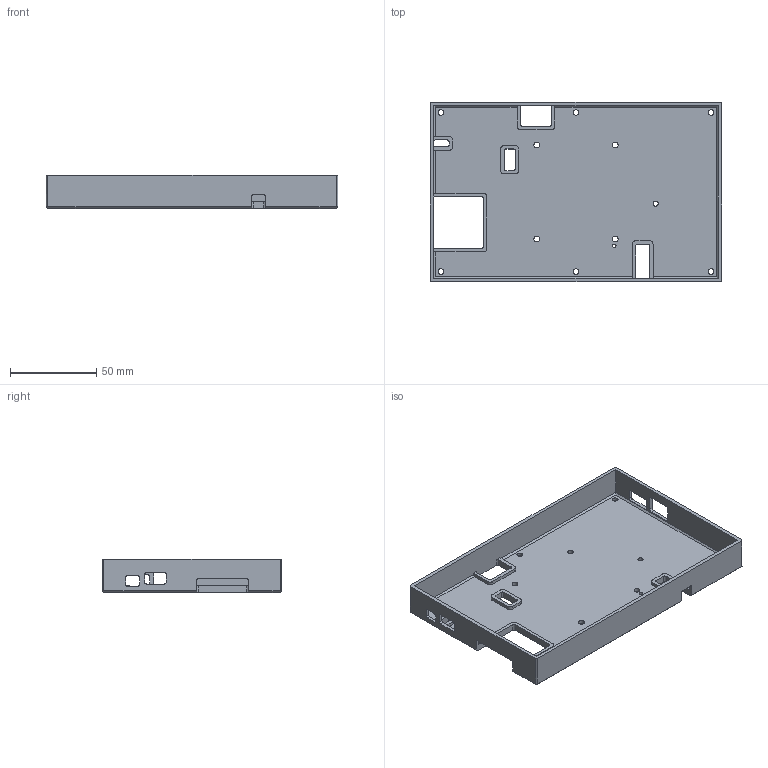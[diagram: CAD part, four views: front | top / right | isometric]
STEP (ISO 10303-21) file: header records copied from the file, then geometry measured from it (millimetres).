
FILE_DESCRIPTION(('FreeCAD Model'),'2;1');
FILE_NAME('Open CASCADE Shape Model','2026-01-20T11:36:55',(''),(''), 'Open CASCADE STEP processor 7.8','FreeCAD','Unknown');
FILE_SCHEMA(('AUTOMOTIVE_DESIGN { 1 0 10303 214 1 1 1 1 }'));
Length unit declared in the file: millimetre
Products named in the file (1): Body
Bounding box: 169.5 x 104.5 x 19.2 mm (x, y, z)
Volume: 50704.6 mm3; surface area: 52371.3 mm2
Topology: 1 solids, 1 shells, 143 faces, 439 edges, 293 vertices
Faces by surface type: plane 79, cylinder 64
Full cylindrical faces by diameter (mm): 2 x1, 3 x1, 3.25 x6, 3.4 x4
Entity records: 5039 total; most frequent: ORIENTED_EDGE 878, CARTESIAN_POINT 876, DIRECTION 859, EDGE_CURVE 439, LINE 307, VECTOR 307, VERTEX_POINT 293, AXIS2_PLACEMENT_3D 276
